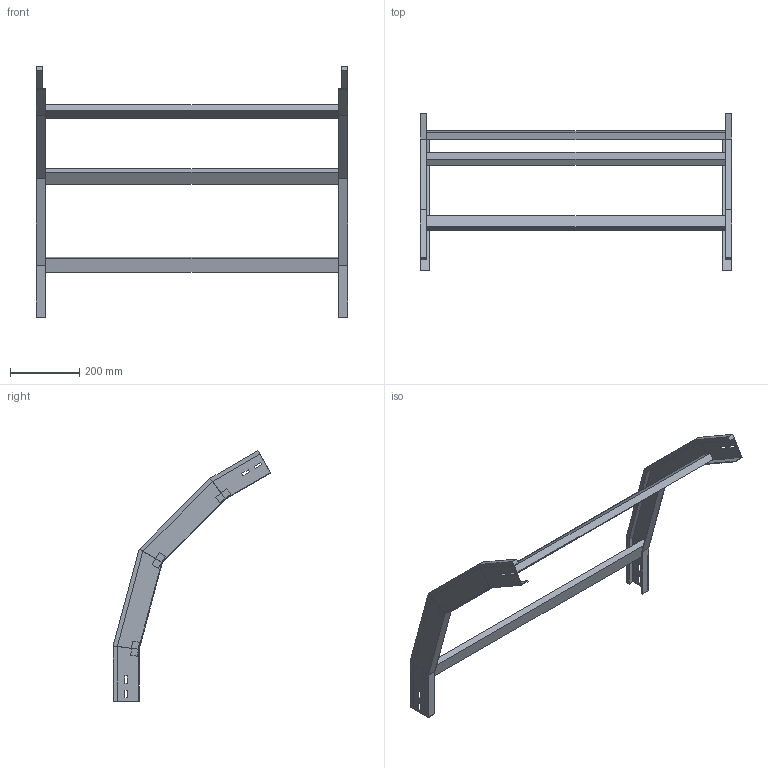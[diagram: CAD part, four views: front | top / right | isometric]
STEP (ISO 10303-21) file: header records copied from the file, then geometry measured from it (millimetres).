
FILE_DESCRIPTION (( 'STEP AP214' ), '1' );
FILE_NAME ('41B5C900.step', '2025-02-21T14:59:46', ( '' ), ( '' ), 'SwSTEP 2.0', 'SolidWorks 2023', '' );
FILE_SCHEMA (( 'AUTOMOTIVE_DESIGN' ));
Length unit declared in the file: millimetre
Products named in the file (3): LONGH.DISCESA_60°_H75_R500; 41B5C900; TRAVERSINO_900
Assembly tree (5 placements, depth 2):
  41B5C900
    LONGH.DISCESA_60°_H75_R500  x2
    TRAVERSINO_900  x3
Bounding box: 900 x 455.08 x 723.27 mm (x, y, z)
Volume: 2856339.7 mm3; surface area: 733306.3 mm2
Topology: 5 solids, 5 shells, 118 faces, 276 edges, 168 vertices
Faces by surface type: plane 118
Entity records: 1672 total; most frequent: CARTESIAN_POINT 276, ORIENTED_EDGE 264, DIRECTION 260, EDGE_CURVE 132, LINE 132, VECTOR 132, VERTEX_POINT 80, AXIS2_PLACEMENT_3D 64
